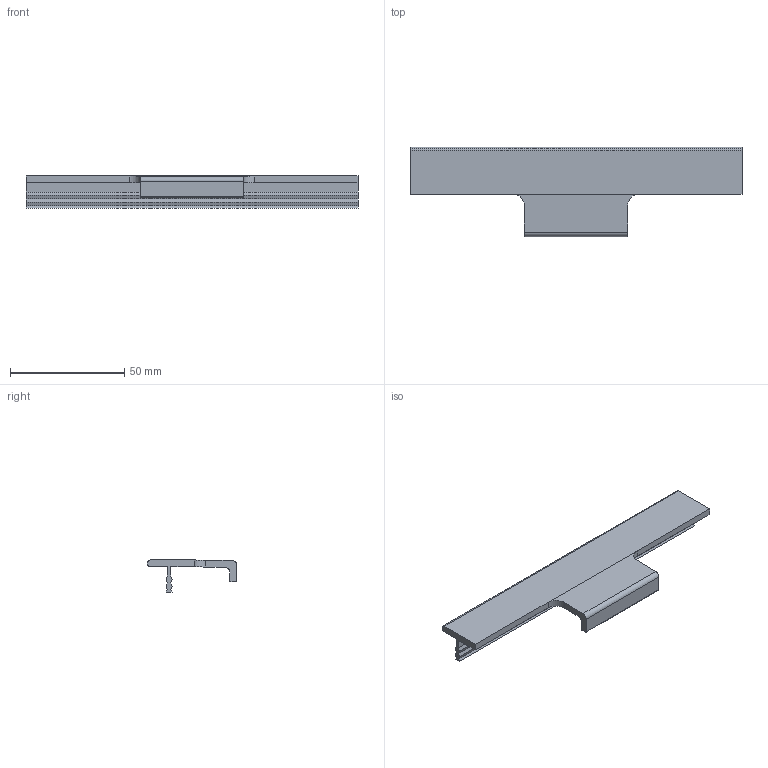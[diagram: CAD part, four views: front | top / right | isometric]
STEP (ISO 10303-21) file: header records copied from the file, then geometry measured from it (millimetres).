
FILE_DESCRIPTION( ( 'STEP AP214' ), '1' );
FILE_NAME( 'C:/Users/KOSH/Desktop/Same as task/Prodecor/9247827.stp', '2021-06-23T11:37:36', ( '' ), ( '' ), ' ', 'PARTsolutions', ' ' );
FILE_SCHEMA( ( 'AUTOMOTIVE_DESIGN { 1 0 10303 214 1 1 1 1 }' ) );
Length unit declared in the file: millimetre
Products named in the file (1): _9247827
Bounding box: 145 x 39 x 14 mm (x, y, z)
Volume: 15234 mm3; surface area: 12567.9 mm2
Topology: 1 solids, 1 shells, 40 faces, 112 edges, 74 vertices
Faces by surface type: plane 30, cylinder 10
Entity records: 1616 total; most frequent: CARTESIAN_POINT 227, ORIENTED_EDGE 224, DIRECTION 214, EDGE_CURVE 112, LINE 92, VECTOR 92, VERTEX_POINT 74, AXIS2_PLACEMENT_3D 61
